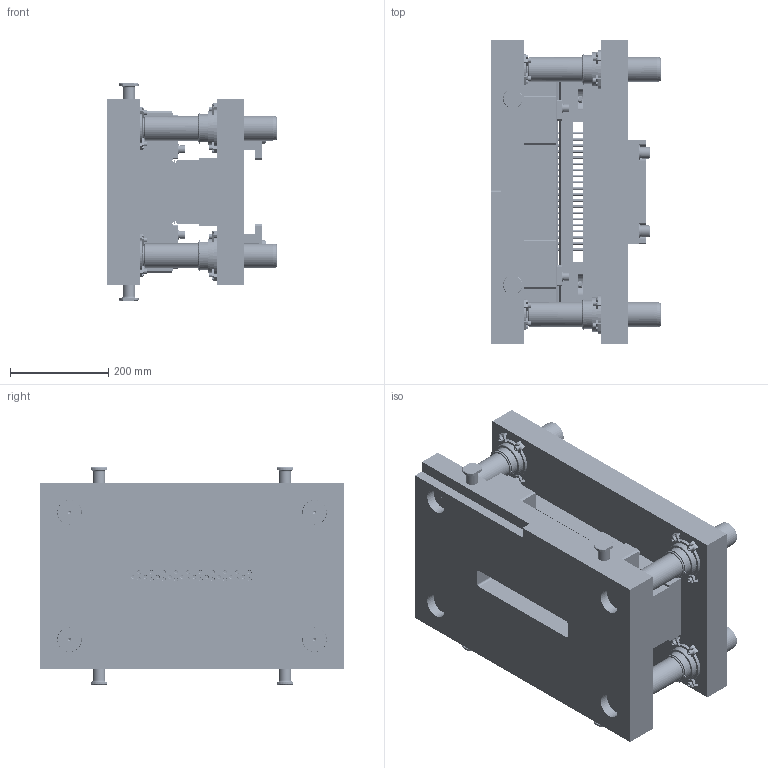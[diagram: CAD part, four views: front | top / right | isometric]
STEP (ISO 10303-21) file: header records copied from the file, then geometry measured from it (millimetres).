
FILE_DESCRIPTION(('STEP AP203'), '1');
FILE_NAME('Øòàìï âûðóáêè 250', '', ('UNSPECIFIED'), ('UNSPECIFIED'), 'C3D Converter', 'C3D Toolkit', '');
FILE_SCHEMA(('CONFIG_CONTROL_DESIGN'));
Length unit declared in the file: millimetre
Products named in the file (57): ШПО2-250.00.000 СБ; ШПО2-250.00.301; УЗТСО.ШГР.00.311; 1; 2; 3; 4; 5; 6; 7; 8; 9; ШПО2-250.00.305; ШПО2-250.00.303; ШПО2-250.00.304; ШПО2-450.00.308; ШПО2-450.00.311-01; ШПО2-450.00.311; ШПО2-450.00.310; ШПО2-250.00.302; ШПО2-250.00.307; ШПО2-250.00.306; ШПО2-450.00.309; ШВ0,7-450.00.318
Assembly tree (187 placements, depth 3):
  ШПО2-250.00.000 СБ
    ШПО2-250.00.301
    УЗТСО.ШГР.00.311  x4
    (unnamed)  x4
      1
      2
      3
      4
      5
      6
      7
      8
      9
    ШПО2-250.00.305
    ШПО2-250.00.303
    ШПО2-250.00.304
    ШПО2-450.00.308  x2
    (unnamed)  x4
    ШПО2-450.00.311-01  x2
    ШПО2-450.00.311  x2
    (unnamed)  x12
    (unnamed)  x8
    (unnamed)  x8
    (unnamed)  x4
    (unnamed)  x4
    (unnamed)  x2
    (unnamed)
    (unnamed)
    ШПО2-450.00.310  x4
    (unnamed)  x8
    (unnamed)  x8
    (unnamed)  x8
    ШПО2-250.00.302
    (unnamed)  x4
      1
      2
      3
      4
      5
      6
      7
      8
      9
    (unnamed)  x4
    ШПО2-250.00.307
    ШПО2-250.00.306
    ШПО2-450.00.309  x2
    (unnamed)  x4
    (unnamed)  x4
    (unnamed)
    (unnamed)
    (unnamed)  x8
    (unnamed)  x8
    ШВ0,7-450.00.318  x2
    (unnamed)  x4
    (unnamed)  x4
    (unnamed)  x30
Bounding box: 346 x 620 x 444 mm (x, y, z)
Volume: 41778245.7 mm3; surface area: 3574985.8 mm2
Topology: 233 solids, 233 shells, 3716 faces, 8366 edges, 5294 vertices
Faces by surface type: plane 1903, cylinder 1059, cone 566, torus 188
Full cylindrical faces by diameter (mm): 4.917 x32, 5.009 x30, 5.01 x30, 5.07 x30, 6 x62, 6.647 x8, 8 x72, 8.376 x8, 9 x4, 10 x88, 10.106 x12, 10.5 x8, 11 x30, 11.63 x4, 12 x28, 13.835 x24, 14 x40, 16 x40, 17 x4, 18 x44, 20 x16, 22 x12, 24 x20, 25 x8, 28 x20, 30 x4, 45 x4, 50 x16, 58 x12, 63 x8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
Entity records: 54167 total; most frequent: CARTESIAN_POINT 15690, DIRECTION 6700, ORIENTED_EDGE 4722, AXIS2_PLACEMENT_3D 2940, EDGE_LOOP 2762, EDGE_CURVE 2361, VERTEX_POINT 1945, FACE_OUTER_BOUND 1432
